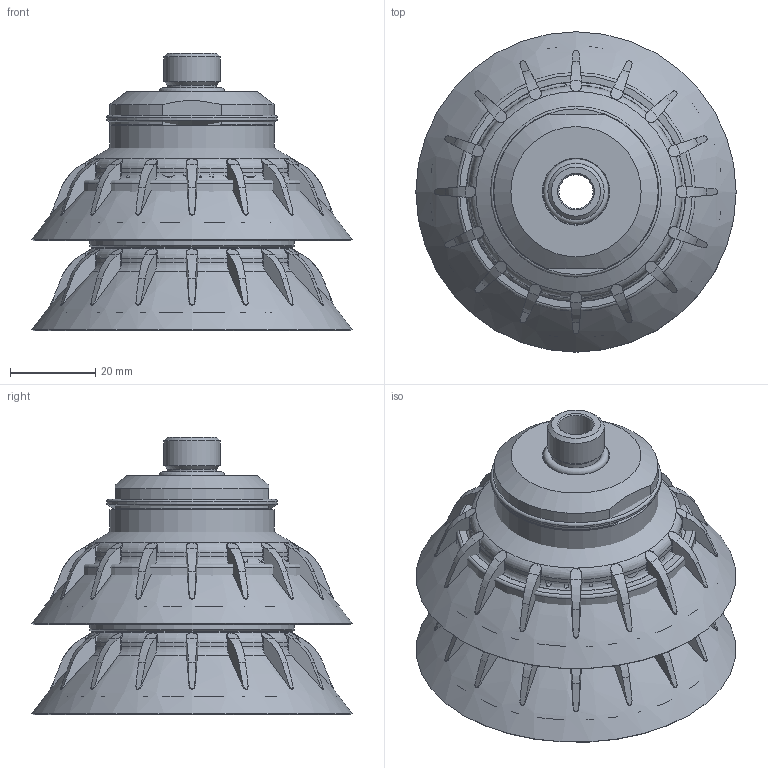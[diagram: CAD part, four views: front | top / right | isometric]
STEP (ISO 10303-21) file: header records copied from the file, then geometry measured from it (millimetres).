
FILE_DESCRIPTION( ( 'Unknown' ), '1' );
FILE_NAME( 'C:/Documents and Settings/Administrator/官帕 拳搁/Magic Cup (Dim)/B1.5/X TYPE/B1.5-60/B1.5-60-X75-N6-A-F2-14M.stp', 'Unknown', ( 'Unknown' ), ( 'Unknown' ), 'XStep 1.0', 'Unknown', ' ' );
FILE_SCHEMA( ( 'automotive_design' ) );
Length unit declared in the file: millimetre
Products named in the file (8): Assem1; Assem2; Assem3; B1.5-60(DIM); 60-14M; 14M-Oring(DIM); X75(DIM); 赤60 STOPPER-
Bounding box: 75 x 75 x 64.97 mm (x, y, z)
Volume: 134552 mm3; surface area: 111014.2 mm2
Topology: 15 solids, 15 shells, 2040 faces, 5277 edges, 3324 vertices
Faces by surface type: plane 570, torus 477, cylinder 471, cone 285, bspline 189, sphere 48
Full cylindrical faces by diameter (mm): 8 x3, 11.5 x3, 13.2 x3, 15.3 x3, 25.5 x3, 26.6 x6, 28 x3, 32 x9, 33 x3, 33.1 x3, 35 x3, 37.2 x6, 38.5 x3, 40 x3, 40.2 x3, 40.874 x3, 44 x3, 48 x3, 56 x3
Entity records: 34639 total; most frequent: CARTESIAN_POINT 17651, ORIENTED_EDGE 3260, DIRECTION 2541, EDGE_CURVE 1630, AXIS2_PLACEMENT_3D 1122, VERTEX_POINT 1081, B_SPLINE_CURVE_WITH_KNOTS 836, EDGE_LOOP 809
